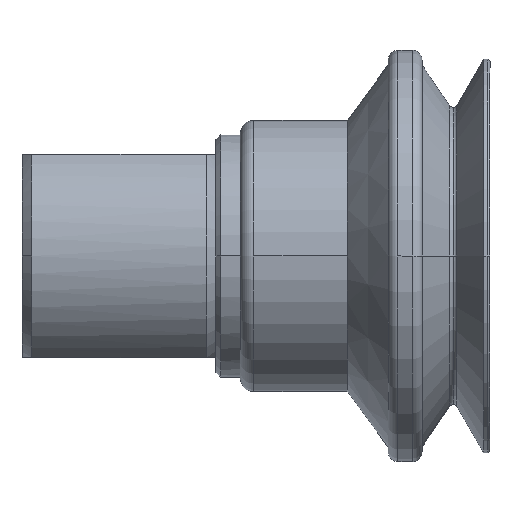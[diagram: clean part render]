
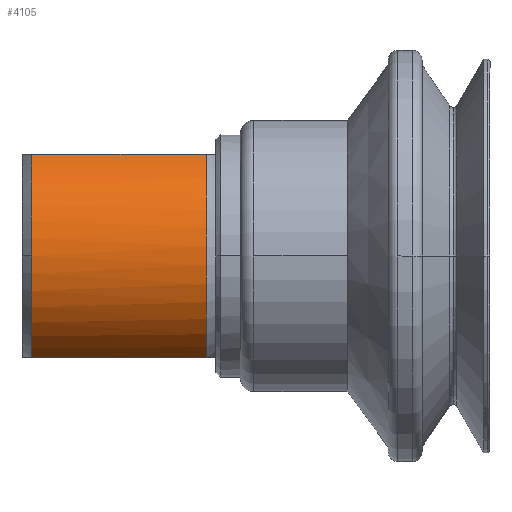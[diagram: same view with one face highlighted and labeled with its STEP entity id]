
A CAD part, left-side view. The second image highlights one B-rep face of the part: STEP entity #4105.
In plain terms, the highlighted cylindrical face has radius 12 mm (diameter 24 mm), a partial arc.
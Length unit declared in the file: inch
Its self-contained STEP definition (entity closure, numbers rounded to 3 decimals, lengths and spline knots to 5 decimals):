
#223 = CARTESIAN_POINT ( 'NONE',  ( -0.22872, -0.41339, 1.15157 ) ) ;
#285 = CIRCLE ( 'NONE', #11640, 0.47244 ) ;
#448 = CARTESIAN_POINT ( 'NONE',  ( 0., 0., 1.15157 ) ) ;
#989 = CIRCLE ( 'NONE', #6021, 0.47244 ) ;
#1144 = DIRECTION ( 'NONE',  ( 0., 0., -1. ) ) ;
#1429 = VERTEX_POINT ( 'NONE', #10220 ) ;
#1762 = DIRECTION ( 'NONE',  ( 0., 0., -1. ) ) ;
#2056 = LINE ( 'NONE', #4643, #12028 ) ;
#2096 = CARTESIAN_POINT ( 'NONE',  ( 0., 0., 1.86024 ) ) ;
#2161 = AXIS2_PLACEMENT_3D ( 'NONE', #2096, #1144, #4984 ) ;
#2420 = DIRECTION ( 'NONE',  ( 0., 0., 1. ) ) ;
#2421 = CARTESIAN_POINT ( 'NONE',  ( -0.22872, -0.41339, 1.86024 ) ) ;
#2467 = EDGE_CURVE ( 'NONE', #9015, #4978, #989, .T. ) ;
#2956 = EDGE_CURVE ( 'NONE', #9254, #1429, #7208, .T. ) ;
#3173 = DIRECTION ( 'NONE',  ( -1., 0., 0. ) ) ;
#3218 = CARTESIAN_POINT ( 'NONE',  ( 0., 0., 1.1122 ) ) ;
#3275 = FACE_OUTER_BOUND ( 'NONE', #6293, .T. ) ;
#4105 = ADVANCED_FACE ( 'NONE', ( #3275 ), #6067, .T. ) ;
#4643 = CARTESIAN_POINT ( 'NONE',  ( -0.22872, 0.41339, 1.1122 ) ) ;
#4978 = VERTEX_POINT ( 'NONE', #223 ) ;
#4984 = DIRECTION ( 'NONE',  ( 1., 0., 0. ) ) ;
#5110 = DIRECTION ( 'NONE',  ( 0., 0., 1. ) ) ;
#5112 = ORIENTED_EDGE ( 'NONE', *, *, #2467, .T. ) ;
#5262 = DIRECTION ( 'NONE',  ( 0., 0., 1. ) ) ;
#5551 = VERTEX_POINT ( 'NONE', #8528 ) ;
#5596 = ORIENTED_EDGE ( 'NONE', *, *, #9327, .T. ) ;
#6021 = AXIS2_PLACEMENT_3D ( 'NONE', #448, #2420, #3173 ) ;
#6067 = CYLINDRICAL_SURFACE ( 'NONE', #10161, 0.47244 ) ;
#6293 = EDGE_LOOP ( 'NONE', ( #10988, #5112, #5596, #11591, #10894 ) ) ;
#6332 = LINE ( 'NONE', #8068, #7212 ) ;
#6795 = DIRECTION ( 'NONE',  ( 0., 0., -1. ) ) ;
#7208 = CIRCLE ( 'NONE', #2161, 0.47244 ) ;
#7212 = VECTOR ( 'NONE', #5262, 39.37008 ) ;
#7582 = CARTESIAN_POINT ( 'NONE',  ( 0., 0., 1.86024 ) ) ;
#8068 = CARTESIAN_POINT ( 'NONE',  ( -0.22872, -0.41339, 1.1122 ) ) ;
#8528 = CARTESIAN_POINT ( 'NONE',  ( -0.22872, 0.41339, 1.86024 ) ) ;
#9015 = VERTEX_POINT ( 'NONE', #12086 ) ;
#9254 = VERTEX_POINT ( 'NONE', #2421 ) ;
#9327 = EDGE_CURVE ( 'NONE', #4978, #9254, #6332, .T. ) ;
#9770 = EDGE_CURVE ( 'NONE', #1429, #5551, #285, .T. ) ;
#10161 = AXIS2_PLACEMENT_3D ( 'NONE', #3218, #5110, #11980 ) ;
#10220 = CARTESIAN_POINT ( 'NONE',  ( -0.47244, 0., 1.86024 ) ) ;
#10388 = DIRECTION ( 'NONE',  ( 1., 0., 0. ) ) ;
#10577 = EDGE_CURVE ( 'NONE', #5551, #9015, #2056, .T. ) ;
#10894 = ORIENTED_EDGE ( 'NONE', *, *, #9770, .T. ) ;
#10988 = ORIENTED_EDGE ( 'NONE', *, *, #10577, .T. ) ;
#11591 = ORIENTED_EDGE ( 'NONE', *, *, #2956, .T. ) ;
#11640 = AXIS2_PLACEMENT_3D ( 'NONE', #7582, #1762, #10388 ) ;
#11980 = DIRECTION ( 'NONE',  ( 1., 0., 0. ) ) ;
#12028 = VECTOR ( 'NONE', #6795, 39.37008 ) ;
#12086 = CARTESIAN_POINT ( 'NONE',  ( -0.22872, 0.41339, 1.15157 ) ) ;
